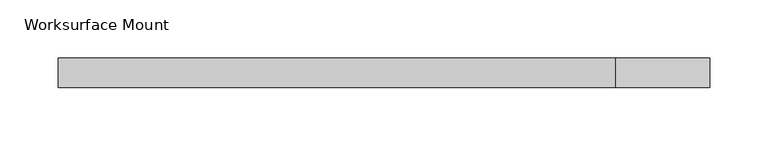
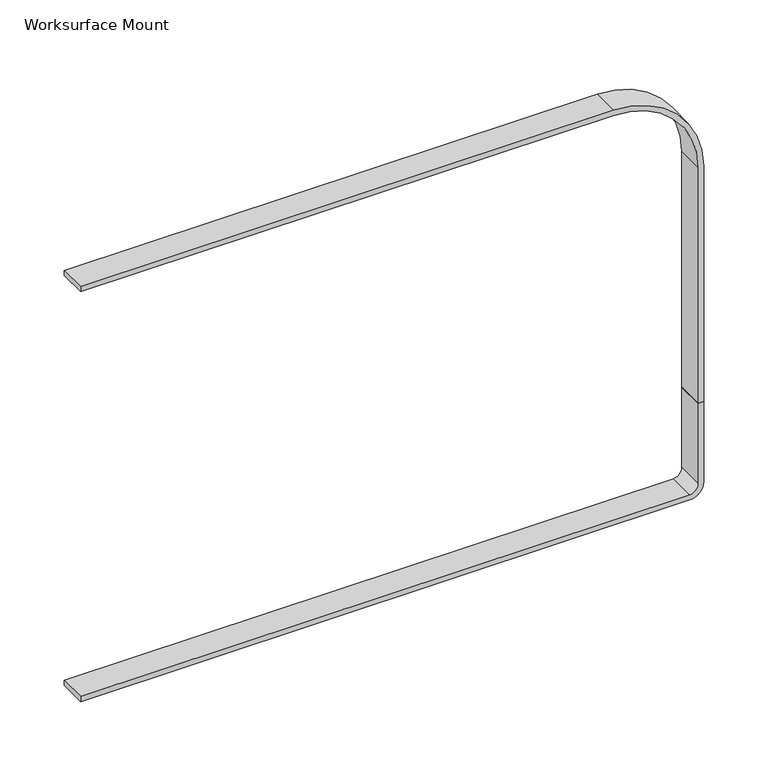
"""IFC4 building model written with IfcOpenShell, lengths in millimetres: light fixture geometry, Haworth_Lighting-LIM : Worksurface Mount."""

from ifc_helpers import new_model, si_unit, point, frame, frame_2d, origin, place, context, project, spatial, polyline, circle_curve, trimmed, segment, composite_curve, outline, extrude, source, transform, mapped, element, save


def worksurface_mount_c278ec45(model_context):
    return source(origin(), model_context, "Body", "SweptSolid", [
        extrude(outline(composite_curve([segment(polyline([(703.2625, -529.3713699), (698.5, -529.3713699), (698.5, 16.7286301)]), True, "CONTINUOUS"), segment(trimmed(circle_curve(frame_2d((711.2, 16.7286301)), 12.7), [point((698.5, 16.7286301))], [point((711.2, 29.4286301))], False, "CARTESIAN"), True, "CONTINUOUS"), segment(polyline([(711.2, 29.4286301), (787.4, 29.4286301), (787.4, 24.6661301), (711.2, 24.6661301)]), True, "CONTINUOUS"), segment(trimmed(circle_curve(frame_2d((711.2, 16.7286301)), 7.9375), [point((711.2, 24.6661301))], [point((703.2625, 16.7286301))], True, "CARTESIAN"), True, "CONTINUOUS"), segment(polyline([(703.2625, 16.7286301), (703.2625, -529.3713699)]), True, "CONTINUOUS")], self_intersect=False)), frame((0.0, 211.5532085, 0.0), z_axis=(0.0, 1.0, 0.0), x_axis=(0.0, 0.0, 1.0)), (0.0, 0.0, 1.0), 25.4),
        extrude(outline(composite_curve([segment(polyline([(1092.2, -529.3713699), (1087.4375, -529.3713699), (1087.4375, -51.5338699)]), True, "CONTINUOUS"), segment(trimmed(circle_curve(frame_2d((1011.2375, -51.5338699)), 76.2), [point((1087.4375, -51.5338699))], [point((1011.2375, 24.6661301))], True, "CARTESIAN"), True, "CONTINUOUS"), segment(polyline([(1011.2375, 24.6661301), (787.4, 24.6661301), (787.4, 29.4286301), (1011.2375, 29.4286301)]), True, "CONTINUOUS"), segment(trimmed(circle_curve(frame_2d((1011.2375, -51.5338699)), 80.9625), [point((1011.2375, 29.4286301))], [point((1092.2, -51.5338699))], False, "CARTESIAN"), True, "CONTINUOUS"), segment(polyline([(1092.2, -51.5338699), (1092.2, -529.3713699)]), True, "CONTINUOUS")], self_intersect=False)), frame((0.0, 211.5532085, 0.0), z_axis=(0.0, 1.0, 0.0), x_axis=(0.0, 0.0, 1.0)), (0.0, 0.0, 1.0), 25.4),
    ])


if __name__ == "__main__":
    model = new_model("IFC4")
    model_context = context("Model", 3, world=origin())
    ifc_project = project(units=[si_unit("LENGTHUNIT", "METRE", prefix="MILLI")], contexts=[model_context])
    site = spatial("IfcSite", under=ifc_project)
    building = spatial("IfcBuilding", under=site)
    placement = place(None, origin())
    worksurface_mount_shape = worksurface_mount_c278ec45(model_context)
    element("IfcLightFixture", 1, ObjectType="Haworth_Lighting-LIM : Worksurface Mount", at=placement, inside=building, context=model_context, shape_type="MappedRepresentation", body=[
        mapped(worksurface_mount_shape, transform((0.0, 0.0, 0.0), x_axis=(1.0, 0.0, 0.0), y_axis=(0.0, 1.0, 0.0), z_axis=(0.0, 0.0, 1.0))),
    ])
    save(model, "model.ifc")
